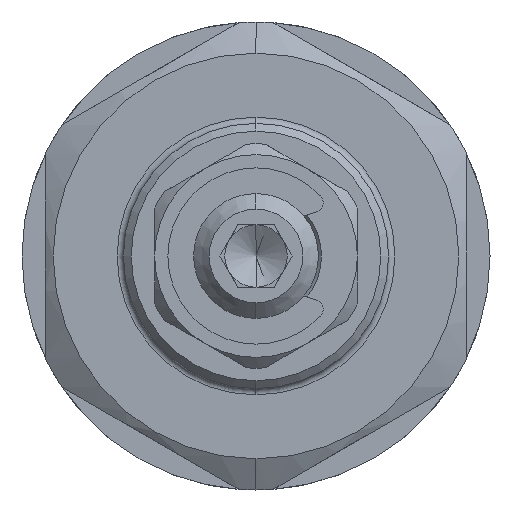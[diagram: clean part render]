
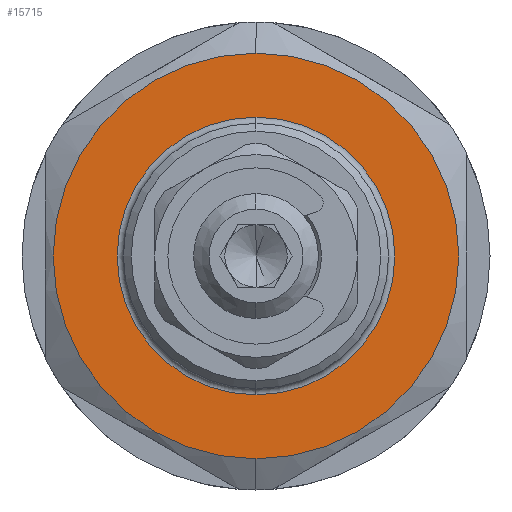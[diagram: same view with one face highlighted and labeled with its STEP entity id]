
A CAD part, left-side view. The second image highlights one B-rep face of the part: STEP entity #15715.
In plain terms, the highlighted planar face has unit normal (-1, 0, 0).
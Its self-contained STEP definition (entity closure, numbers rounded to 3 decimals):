
#105 = DIRECTION ( 'NONE',  ( 1., 0., 0. ) ) ;
#423 = ORIENTED_EDGE ( 'NONE', *, *, #5511, .F. ) ;
#1048 = CIRCLE ( 'NONE', #14594, 13. ) ;
#1054 = CARTESIAN_POINT ( 'NONE',  ( -16.2, 0., -13. ) ) ;
#1134 = CARTESIAN_POINT ( 'NONE',  ( -16.2, 0., 0. ) ) ;
#1384 = DIRECTION ( 'NONE',  ( 0., 0., -1. ) ) ;
#1839 = AXIS2_PLACEMENT_3D ( 'NONE', #6730, #6524, #9183 ) ;
#2469 = CARTESIAN_POINT ( 'NONE',  ( -16.2, 0., 0. ) ) ;
#3044 = AXIS2_PLACEMENT_3D ( 'NONE', #1134, #9943, #12514 ) ;
#4056 = CIRCLE ( 'NONE', #14170, 8.9 ) ;
#4238 = CIRCLE ( 'NONE', #1839, 8.9 ) ;
#5511 = EDGE_CURVE ( 'NONE', #7923, #11435, #16177, .T. ) ;
#6227 = DIRECTION ( 'NONE',  ( 0., 0., -1. ) ) ;
#6438 = CARTESIAN_POINT ( 'NONE',  ( -16.2, 0., 13. ) ) ;
#6524 = DIRECTION ( 'NONE',  ( 1., 0., 0. ) ) ;
#6659 = AXIS2_PLACEMENT_3D ( 'NONE', #7489, #15056, #6227 ) ;
#6730 = CARTESIAN_POINT ( 'NONE',  ( -16.2, 0., 0. ) ) ;
#7081 = EDGE_CURVE ( 'NONE', #13782, #11677, #4238, .T. ) ;
#7180 = ORIENTED_EDGE ( 'NONE', *, *, #7081, .T. ) ;
#7398 = CARTESIAN_POINT ( 'NONE',  ( -16.2, 0., 8.9 ) ) ;
#7489 = CARTESIAN_POINT ( 'NONE',  ( -16.2, 15., 0. ) ) ;
#7923 = VERTEX_POINT ( 'NONE', #1054 ) ;
#8892 = CARTESIAN_POINT ( 'NONE',  ( -16.2, 0., -8.9 ) ) ;
#9183 = DIRECTION ( 'NONE',  ( 0., 0., -1. ) ) ;
#9196 = ORIENTED_EDGE ( 'NONE', *, *, #15787, .F. ) ;
#9857 = EDGE_LOOP ( 'NONE', ( #7180, #13988 ) ) ;
#9943 = DIRECTION ( 'NONE',  ( 1., 0., 0. ) ) ;
#10123 = FACE_OUTER_BOUND ( 'NONE', #15157, .T. ) ;
#11435 = VERTEX_POINT ( 'NONE', #6438 ) ;
#11650 = EDGE_CURVE ( 'NONE', #11677, #13782, #4056, .T. ) ;
#11677 = VERTEX_POINT ( 'NONE', #7398 ) ;
#12312 = FACE_BOUND ( 'NONE', #9857, .T. ) ;
#12462 = DIRECTION ( 'NONE',  ( 1., 0., 0. ) ) ;
#12514 = DIRECTION ( 'NONE',  ( 0., 0., -1. ) ) ;
#12613 = PLANE ( 'NONE',  #6659 ) ;
#13782 = VERTEX_POINT ( 'NONE', #8892 ) ;
#13988 = ORIENTED_EDGE ( 'NONE', *, *, #11650, .T. ) ;
#14170 = AXIS2_PLACEMENT_3D ( 'NONE', #2469, #12462, #16238 ) ;
#14594 = AXIS2_PLACEMENT_3D ( 'NONE', #15214, #105, #1384 ) ;
#15056 = DIRECTION ( 'NONE',  ( 1., 0., 0. ) ) ;
#15157 = EDGE_LOOP ( 'NONE', ( #423, #9196 ) ) ;
#15214 = CARTESIAN_POINT ( 'NONE',  ( -16.2, 0., 0. ) ) ;
#15715 = ADVANCED_FACE ( 'NONE', ( #12312, #10123 ), #12613, .F. ) ;
#15787 = EDGE_CURVE ( 'NONE', #11435, #7923, #1048, .T. ) ;
#16177 = CIRCLE ( 'NONE', #3044, 13. ) ;
#16238 = DIRECTION ( 'NONE',  ( 0., 0., -1. ) ) ;
